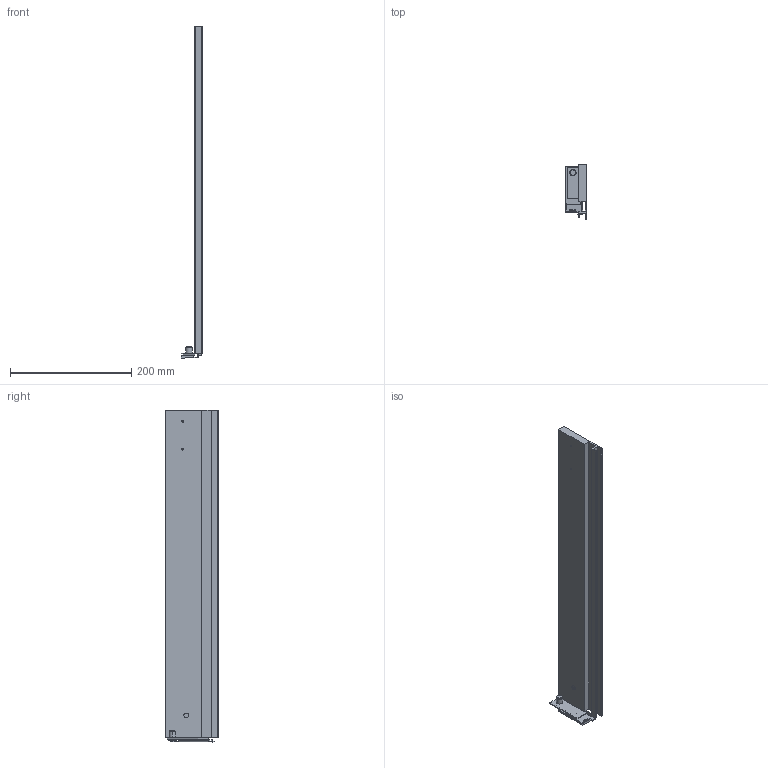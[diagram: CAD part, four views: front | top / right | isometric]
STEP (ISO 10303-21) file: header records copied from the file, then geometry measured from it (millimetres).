
FILE_DESCRIPTION (( 'STEP AP214' ), '1' );
FILE_NAME ('Vionaro_Alu-Zarge_H89_NL550_RE.STEP', '2014-08-18T10:04:33', ( '' ), ( '' ), 'SwSTEP 2.0', 'SolidWorks 2013', '' );
FILE_SCHEMA (( 'AUTOMOTIVE_DESIGN' ));
Length unit declared in the file: millimetre
Products named in the file (1): Vionaro_Alu-Zarge_H89_NL550_RE
Bounding box: 35.6 x 89 x 547.9 mm (x, y, z)
Volume: 489713.6 mm3; surface area: 139775.7 mm2
Topology: 1 solids, 1 shells, 101 faces, 272 edges, 178 vertices
Faces by surface type: plane 81, cylinder 16, cone 4
Entity records: 3162 total; most frequent: CARTESIAN_POINT 558, ORIENTED_EDGE 544, DIRECTION 512, EDGE_CURVE 272, VECTOR 232, LINE 232, VERTEX_POINT 178, AXIS2_PLACEMENT_3D 140
